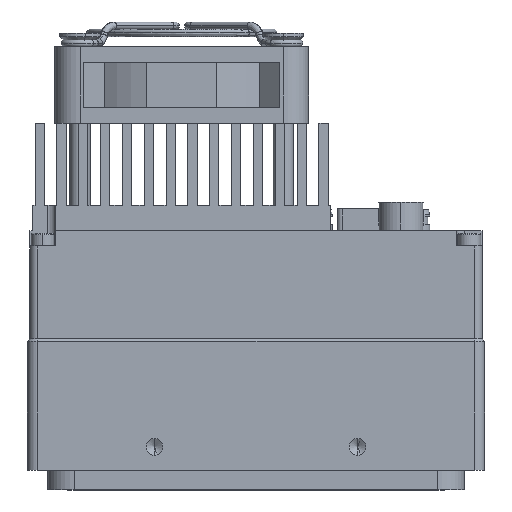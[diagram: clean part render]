
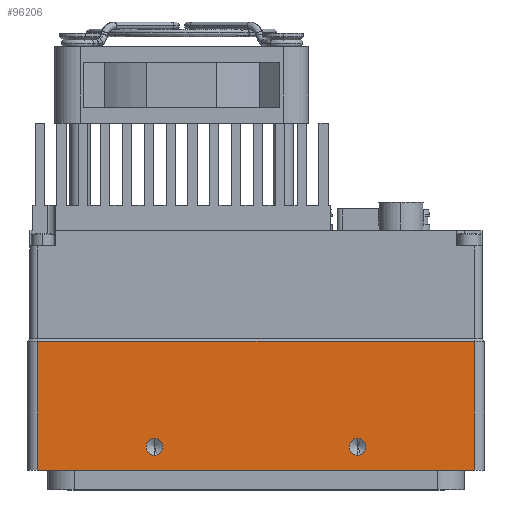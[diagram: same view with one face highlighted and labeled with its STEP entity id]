
A CAD part, left-side view. The second image highlights one B-rep face of the part: STEP entity #96206.
In plain terms, the highlighted planar face has unit normal (-1, 0, 0).
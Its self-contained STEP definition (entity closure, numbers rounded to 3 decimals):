
#1464 = PLANE ( 'NONE',  #25506 ) ;
#1821 = DIRECTION ( 'NONE',  ( 0., 0., 1. ) ) ;
#9549 = CIRCLE ( 'NONE', #59317, 1.65 ) ;
#12279 = CARTESIAN_POINT ( 'NONE',  ( -57.507, -36.762, 74.78 ) ) ;
#24287 = DIRECTION ( 'NONE',  ( 0., 0., -1. ) ) ;
#25328 = DIRECTION ( 'NONE',  ( 1., 0., 0. ) ) ;
#25506 = AXIS2_PLACEMENT_3D ( 'NONE', #145900, #25328, #24287 ) ;
#26182 = FACE_BOUND ( 'NONE', #51126, .T. ) ;
#27872 = VECTOR ( 'NONE', #84538, 1000. ) ;
#29807 = CIRCLE ( 'NONE', #66209, 1.65 ) ;
#34642 = DIRECTION ( 'NONE',  ( 0., 0., 1. ) ) ;
#37574 = VERTEX_POINT ( 'NONE', #69600 ) ;
#39711 = CARTESIAN_POINT ( 'NONE',  ( -57.507, 28.238, 79.43 ) ) ;
#40846 = VERTEX_POINT ( 'NONE', #122471 ) ;
#41267 = DIRECTION ( 'NONE',  ( 0., 0., 1. ) ) ;
#42610 = DIRECTION ( 'NONE',  ( 0., 0., -1. ) ) ;
#48546 = ORIENTED_EDGE ( 'NONE', *, *, #144305, .F. ) ;
#48930 = VECTOR ( 'NONE', #149626, 1000. ) ;
#51126 = EDGE_LOOP ( 'NONE', ( #70851, #115892 ) ) ;
#54527 = LINE ( 'NONE', #12279, #27872 ) ;
#55095 = VERTEX_POINT ( 'NONE', #69367 ) ;
#55198 = ORIENTED_EDGE ( 'NONE', *, *, #120550, .F. ) ;
#58312 = EDGE_CURVE ( 'NONE', #37574, #73316, #102053, .T. ) ;
#59255 = VERTEX_POINT ( 'NONE', #121708 ) ;
#59317 = AXIS2_PLACEMENT_3D ( 'NONE', #62346, #74552, #1821 ) ;
#62346 = CARTESIAN_POINT ( 'NONE',  ( -57.507, -11.762, 79.43 ) ) ;
#62579 = LINE ( 'NONE', #129152, #127175 ) ;
#63046 = LINE ( 'NONE', #120856, #152328 ) ;
#66209 = AXIS2_PLACEMENT_3D ( 'NONE', #145196, #121307, #157395 ) ;
#69367 = CARTESIAN_POINT ( 'NONE',  ( -57.507, 28.238, 77.78 ) ) ;
#69600 = CARTESIAN_POINT ( 'NONE',  ( -57.507, -34.762, 100.18 ) ) ;
#69967 = EDGE_LOOP ( 'NONE', ( #123129, #111793, #102671, #99161 ) ) ;
#70851 = ORIENTED_EDGE ( 'NONE', *, *, #116721, .F. ) ;
#73316 = VERTEX_POINT ( 'NONE', #132022 ) ;
#74552 = DIRECTION ( 'NONE',  ( -1., 0., 0. ) ) ;
#74800 = CARTESIAN_POINT ( 'NONE',  ( -57.507, -11.762, 81.08 ) ) ;
#76042 = VERTEX_POINT ( 'NONE', #74800 ) ;
#84538 = DIRECTION ( 'NONE',  ( 0., -1., 0. ) ) ;
#96206 = ADVANCED_FACE ( 'NONE', ( #123092, #26182, #151560 ), #1464, .F. ) ;
#97441 = DIRECTION ( 'NONE',  ( 0., 0., 1. ) ) ;
#99161 = ORIENTED_EDGE ( 'NONE', *, *, #140203, .T. ) ;
#100712 = CARTESIAN_POINT ( 'NONE',  ( -57.507, -36.762, 100.18 ) ) ;
#102053 = LINE ( 'NONE', #100712, #48930 ) ;
#102671 = ORIENTED_EDGE ( 'NONE', *, *, #120728, .T. ) ;
#105734 = DIRECTION ( 'NONE',  ( -1., 0., 0. ) ) ;
#108825 = VERTEX_POINT ( 'NONE', #143566 ) ;
#111793 = ORIENTED_EDGE ( 'NONE', *, *, #58312, .T. ) ;
#112422 = DIRECTION ( 'NONE',  ( -1., 0., 0. ) ) ;
#115892 = ORIENTED_EDGE ( 'NONE', *, *, #153234, .F. ) ;
#116721 = EDGE_CURVE ( 'NONE', #40846, #55095, #147248, .T. ) ;
#118060 = AXIS2_PLACEMENT_3D ( 'NONE', #120079, #105734, #34642 ) ;
#120079 = CARTESIAN_POINT ( 'NONE',  ( -57.507, 28.238, 79.43 ) ) ;
#120550 = EDGE_CURVE ( 'NONE', #76042, #108825, #9549, .T. ) ;
#120728 = EDGE_CURVE ( 'NONE', #73316, #59255, #62579, .T. ) ;
#120856 = CARTESIAN_POINT ( 'NONE',  ( -57.507, -34.762, 85. ) ) ;
#121307 = DIRECTION ( 'NONE',  ( -1., 0., 0. ) ) ;
#121708 = CARTESIAN_POINT ( 'NONE',  ( -57.507, 51.238, 74.78 ) ) ;
#122471 = CARTESIAN_POINT ( 'NONE',  ( -57.507, 28.238, 81.08 ) ) ;
#123092 = FACE_BOUND ( 'NONE', #123298, .T. ) ;
#123129 = ORIENTED_EDGE ( 'NONE', *, *, #148317, .T. ) ;
#123298 = EDGE_LOOP ( 'NONE', ( #55198, #48546 ) ) ;
#127175 = VECTOR ( 'NONE', #42610, 1000. ) ;
#129152 = CARTESIAN_POINT ( 'NONE',  ( -57.507, 51.238, 85. ) ) ;
#132022 = CARTESIAN_POINT ( 'NONE',  ( -57.507, 51.238, 100.18 ) ) ;
#132151 = CARTESIAN_POINT ( 'NONE',  ( -57.507, -34.762, 74.78 ) ) ;
#138743 = CIRCLE ( 'NONE', #118060, 1.65 ) ;
#140203 = EDGE_CURVE ( 'NONE', #59255, #141611, #54527, .T. ) ;
#141611 = VERTEX_POINT ( 'NONE', #132151 ) ;
#143566 = CARTESIAN_POINT ( 'NONE',  ( -57.507, -11.762, 77.78 ) ) ;
#144305 = EDGE_CURVE ( 'NONE', #108825, #76042, #29807, .T. ) ;
#144458 = AXIS2_PLACEMENT_3D ( 'NONE', #39711, #112422, #41267 ) ;
#145196 = CARTESIAN_POINT ( 'NONE',  ( -57.507, -11.762, 79.43 ) ) ;
#145900 = CARTESIAN_POINT ( 'NONE',  ( -57.507, -36.762, 85. ) ) ;
#147248 = CIRCLE ( 'NONE', #144458, 1.65 ) ;
#148317 = EDGE_CURVE ( 'NONE', #141611, #37574, #63046, .T. ) ;
#149626 = DIRECTION ( 'NONE',  ( 0., 1., 0. ) ) ;
#151560 = FACE_OUTER_BOUND ( 'NONE', #69967, .T. ) ;
#152328 = VECTOR ( 'NONE', #97441, 1000. ) ;
#153234 = EDGE_CURVE ( 'NONE', #55095, #40846, #138743, .T. ) ;
#157395 = DIRECTION ( 'NONE',  ( 0., 0., 1. ) ) ;
